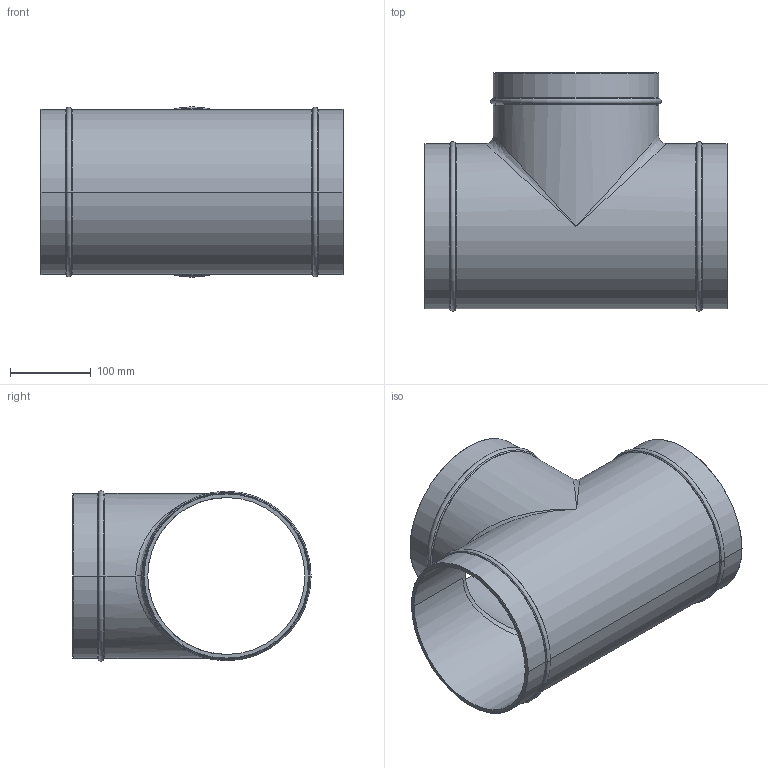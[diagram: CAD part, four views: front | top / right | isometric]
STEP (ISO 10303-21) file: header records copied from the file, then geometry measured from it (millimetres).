
FILE_DESCRIPTION((''),'2;1');
FILE_NAME('2014A00500','2017-05-09T',('Administrator'),(''),'PRO/ENGINEER BY PARAMETRIC TECHNOLOGY CORPORATION, 2009360','PRO/ENGINEER BY PARAMETRIC TECHNOLOGY CORPORATION, 2009360','');
FILE_SCHEMA(('AUTOMOTIVE_DESIGN_CC2 { 1 2 10303 214 -1 1 5 2 }'));
Length unit declared in the file: millimetre
Products named in the file (1): 2014A00500
Bounding box: 375 x 294.99 x 210.97 mm (x, y, z)
Volume: 1409552.3 mm3; surface area: 561650.8 mm2
Topology: 1 solids, 1 shells, 57 faces, 124 edges, 68 vertices
Faces by surface type: torus 24, cylinder 14, cone 12, bspline 4, plane 3
Entity records: 2532 total; most frequent: CARTESIAN_POINT 868, DIRECTION 296, ORIENTED_EDGE 248, AXIS2_PLACEMENT_3D 133, PRESENTATION_STYLE_ASSIGNMENT 125, STYLED_ITEM 125, CURVE_STYLE 124, EDGE_CURVE 124
